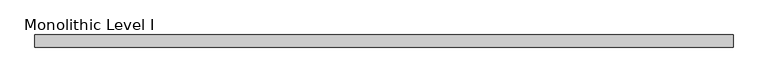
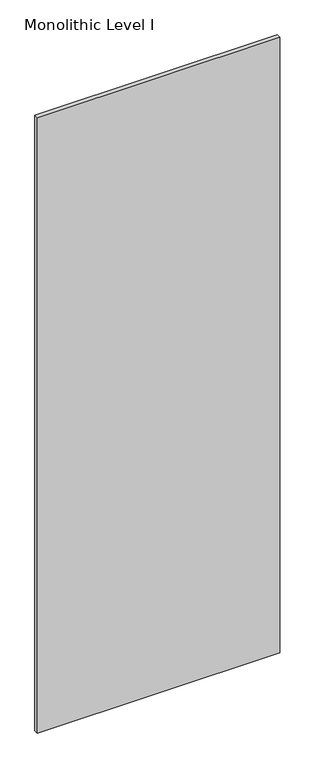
"""IFC4 building model written with IfcOpenShell, lengths in millimetres: proxy geometry, Panel-Fascia-Teknion-Altos-Standard : Monolithic Level I."""

import ifcopenshell
import ifcopenshell.guid

model = None  # the IFC model being written
_history = None  # IfcOwnerHistory: only IFC2X3 demands one
_inside = {}  # id of a spatial element -> (the spatial element, [elements in it])
_under = {}  # id of a project, library or spatial element -> (it, [spatial elements below it])
_declared = {}  # id of a project -> (the project, [libraries it declares])
_typed = {}  # id of a type object -> (the type object, [elements of that type])
_made_of = {}  # id of a material, layer set ... -> (it, [elements and type objects made of it])


def new_model(schema):
    """Start an empty IFC model of exactly this schema.

    Asked for "IFC4X3", IfcOpenShell would pick the latest addendum, in which some entities
    have other attributes; the version numbers below select the first issue.
    IFC2X3 requires an IfcOwnerHistory on every rooted entity: one is made here for all.
    """
    global model, _history
    if schema == "IFC4X3":
        model = ifcopenshell.file(schema_version=(4, 3, 0, 0))
    else:
        model = ifcopenshell.file(schema=schema)
    _inside.clear()
    _under.clear()
    _declared.clear()
    _typed.clear()
    _made_of.clear()
    _history = None
    if model.schema == "IFC2X3":
        org = make("IfcOrganization", Name="unknown")
        user = make(
            "IfcPersonAndOrganization",
            ThePerson=make("IfcPerson", FamilyName="unknown"),
            TheOrganization=org,
        )
        app = make(
            "IfcApplication",
            ApplicationDeveloper=org,
            Version="unknown",
            ApplicationFullName="unknown",
            ApplicationIdentifier="unknown",
        )
        _history = make(
            "IfcOwnerHistory",
            OwningUser=user,
            OwningApplication=app,
            ChangeAction="ADDED",
            CreationDate=0,
        )
    return model


def make(cls, **values):
    """One entity of the class cls with the attributes given. An attribute that is None is left unset."""
    return model.create_entity(
        cls, **{name: value for name, value in values.items() if value is not None}
    )


def rooted(cls, **values):
    """An entity with a GlobalId (a new one), such as an element, a storey or a relation."""
    return make(cls, GlobalId=ifcopenshell.guid.new(), OwnerHistory=_history, **values)


def si_unit(unit_type, name, prefix=None):
    """IfcSIUnit, for example si_unit("LENGTHUNIT", "METRE", prefix="MILLI")."""
    return make("IfcSIUnit", UnitType=unit_type, Prefix=prefix, Name=name)


def assignment(units):
    """IfcUnitAssignment: the units of a project."""
    return None if units is None else make("IfcUnitAssignment", Units=units)


def point(xyz):
    """IfcCartesianPoint."""
    return None if xyz is None else make("IfcCartesianPoint", Coordinates=xyz)


def direction(xyz):
    """IfcDirection."""
    return None if xyz is None else make("IfcDirection", DirectionRatios=xyz)


def frame(location, z_axis=None, x_axis=None):
    """IfcAxis2Placement3D, a coordinate frame: its origin and axes. An axis left out is left unset."""
    return make(
        "IfcAxis2Placement3D",
        Location=point(location),
        Axis=direction(z_axis),
        RefDirection=direction(x_axis),
    )


def origin():
    """The frame at (0, 0, 0) with its axes left unset."""
    return frame((0.0, 0.0, 0.0))


def place(relative_to, where):
    """IfcLocalPlacement: puts the frame where relative to a parent placement (None: the world)."""
    return make(
        "IfcLocalPlacement", PlacementRelTo=relative_to, RelativePlacement=where
    )


def context(
    kind, dimensions, precision=None, world=None, true_north=None, identifier=None
):
    """IfcGeometricRepresentationContext, for example the 3D "Model" context."""
    return make(
        "IfcGeometricRepresentationContext",
        ContextIdentifier=identifier,
        ContextType=kind,
        CoordinateSpaceDimension=dimensions,
        Precision=precision,
        WorldCoordinateSystem=world,
        TrueNorth=true_north,
    )


def project(units=None, contexts=None):
    """IfcProject with its units and contexts."""
    return rooted(
        "IfcProject",
        Name="project",
        RepresentationContexts=contexts,
        UnitsInContext=assignment(units),
    )


def spatial(cls, under=None, at=None, **own):
    """A site, building, storey or space (cls), placed at a placement, below another one or the project."""
    s = rooted(cls, ObjectPlacement=at, **own)
    if under is not None:
        _under.setdefault(under.id(), (under, []))[1].append(s)
    return s


def polyline(points):
    """IfcPolyline through the points."""
    return make("IfcPolyline", Points=[point(p) for p in points])


def outline(outer, holes=None, kind="AREA"):
    """IfcArbitraryClosedProfileDef: a profile drawn as a closed curve; with holes, ...WithVoids."""
    if holes is None:
        return make("IfcArbitraryClosedProfileDef", ProfileType=kind, OuterCurve=outer)
    return make(
        "IfcArbitraryProfileDefWithVoids",
        ProfileType=kind,
        OuterCurve=outer,
        InnerCurves=holes,
    )


def extrude(swept, where, along, depth):
    """IfcExtrudedAreaSolid: the profile swept, set in the frame where, extruded along a direction by depth."""
    return make(
        "IfcExtrudedAreaSolid",
        SweptArea=swept,
        Position=where,
        ExtrudedDirection=direction(along),
        Depth=depth,
    )


def shape(context_of_items, identifier, shape_type, items):
    """IfcShapeRepresentation: the items that make up one representation, for example the "Body"."""
    return make(
        "IfcShapeRepresentation",
        ContextOfItems=context_of_items,
        RepresentationIdentifier=identifier,
        RepresentationType=shape_type,
        Items=items,
    )


def source(mapping_origin, context_of_items, identifier, shape_type, items):
    """IfcRepresentationMap: a shape defined once, which mapped items show again and again."""
    return make(
        "IfcRepresentationMap",
        MappingOrigin=mapping_origin,
        MappedRepresentation=shape(context_of_items, identifier, shape_type, items),
    )


def transform(
    local_origin,
    x_axis=None,
    y_axis=None,
    z_axis=None,
    scale=None,
    scale2=None,
    scale3=None,
    uniform=True,
):
    """IfcCartesianTransformationOperator3D, or its non-uniform kind. x_axis, y_axis, z_axis: its Axis1, 2, 3."""
    if uniform:
        return make(
            "IfcCartesianTransformationOperator3D",
            Axis1=direction(x_axis),
            Axis2=direction(y_axis),
            LocalOrigin=point(local_origin),
            Scale=scale,
            Axis3=direction(z_axis),
        )
    return make(
        "IfcCartesianTransformationOperator3DnonUniform",
        Axis1=direction(x_axis),
        Axis2=direction(y_axis),
        LocalOrigin=point(local_origin),
        Scale=scale,
        Axis3=direction(z_axis),
        Scale2=scale2,
        Scale3=scale3,
    )


def mapped(mapping_source, mapping_target):
    """IfcMappedItem: shows the shape of a source again, moved by a transform."""
    return make(
        "IfcMappedItem", MappingSource=mapping_source, MappingTarget=mapping_target
    )


def made_of(thing, what):
    """Note that an element or type object is made of a material, layer set ...; save() writes the relation."""
    if what is not None:
        _made_of.setdefault(what.id(), (what, []))[1].append(thing)
    return thing


def element(
    cls,
    number,
    at=None,
    inside=None,
    cuts=None,
    type_object=None,
    material=None,
    context=None,
    identifier="Body",
    shape_type=None,
    held_by="IfcProductDefinitionShape",
    body=None,
    shapes=None,
    **own,
):
    """One element of the class cls, such as IfcWall. Its Tag is "e" and its number.

    at: its placement. inside: the storey or other place that contains it. cuts: it is an
    opening in that element (IfcRelVoidsElement). A single representation is given by context,
    identifier, shape_type and body (its items); several are given by shapes. held_by: the class
    of the entity that holds the representations. save() writes the other relations.
    """
    e = rooted(cls, Tag="e%d" % number, ObjectPlacement=at, **own)
    if body is not None:
        shapes = [shape(context, identifier, shape_type, body)]
    if shapes is not None:
        e.Representation = make(held_by, Representations=shapes)
    if inside is not None:
        _inside.setdefault(inside.id(), (inside, []))[1].append(e)
    if cuts is not None:
        rooted(
            "IfcRelVoidsElement", RelatingBuildingElement=cuts, RelatedOpeningElement=e
        )
    if type_object is not None:
        _typed.setdefault(type_object.id(), (type_object, []))[1].append(e)
    return made_of(e, material)


def aggregate(whole, parts):
    """IfcRelAggregates: a whole, such as a stair, and the parts it consists of."""
    return rooted("IfcRelAggregates", RelatingObject=whole, RelatedObjects=parts)


def save(model, path):
    """Write the relations noted so far, then the file.

    IfcRelAggregates (storeys below a building ...), IfcRelContainedInSpatialStructure (elements
    in a storey), IfcRelDefinesByType, IfcRelAssociatesMaterial and IfcRelDeclares: one each for
    every whole, place, type object, material and project.
    """
    for whole, parts in _under.values():
        aggregate(whole, parts)
    for where, things in _inside.values():
        rooted(
            "IfcRelContainedInSpatialStructure",
            RelatedElements=things,
            RelatingStructure=where,
        )
    for kind, things in _typed.values():
        rooted("IfcRelDefinesByType", RelatedObjects=things, RelatingType=kind)
    for what, things in _made_of.values():
        rooted("IfcRelAssociatesMaterial", RelatedObjects=things, RelatingMaterial=what)
    for by, libraries in _declared.values():
        rooted("IfcRelDeclares", RelatingContext=by, RelatedDefinitions=libraries)
    model.write(path)


def monolithic_level_i_117a5531(model_context):
    return source(origin(), model_context, "Body", "SweptSolid", [
        extrude(outline(polyline([(535.9300781, 9.525), (535.9300781, -9.525), (-535.9300781, -9.525), (-535.9300781, 9.525), (535.9300781, 9.525)])), frame((0.0, 0.0, 3.175), z_axis=(0.0, 0.0, 1.0), x_axis=(1.0, 0.0, 0.0)), (0.0, 0.0, 1.0), 2877.693),
    ])


if __name__ == "__main__":
    model = new_model("IFC4")
    model_context = context("Model", 3, world=origin())
    ifc_project = project(units=[si_unit("LENGTHUNIT", "METRE", prefix="MILLI")], contexts=[model_context])
    site = spatial("IfcSite", under=ifc_project)
    building = spatial("IfcBuilding", under=site)
    placement = place(None, origin())
    monolithic_level_i_shape = monolithic_level_i_117a5531(model_context)
    element("IfcBuildingElementProxy", 1, Name="Panel-Fascia-Teknion-Altos-Standard : Monolithic Level I", ObjectType="Panel-Fascia-Teknion-Altos-Standard : Monolithic Level I", at=placement, inside=building, context=model_context, shape_type="MappedRepresentation", body=[
        mapped(monolithic_level_i_shape, transform((0.0, 0.0, 0.0), x_axis=(1.0, 0.0, 0.0), y_axis=(0.0, 1.0, 0.0), z_axis=(0.0, 0.0, 1.0))),
    ])
    save(model, "model.ifc")
